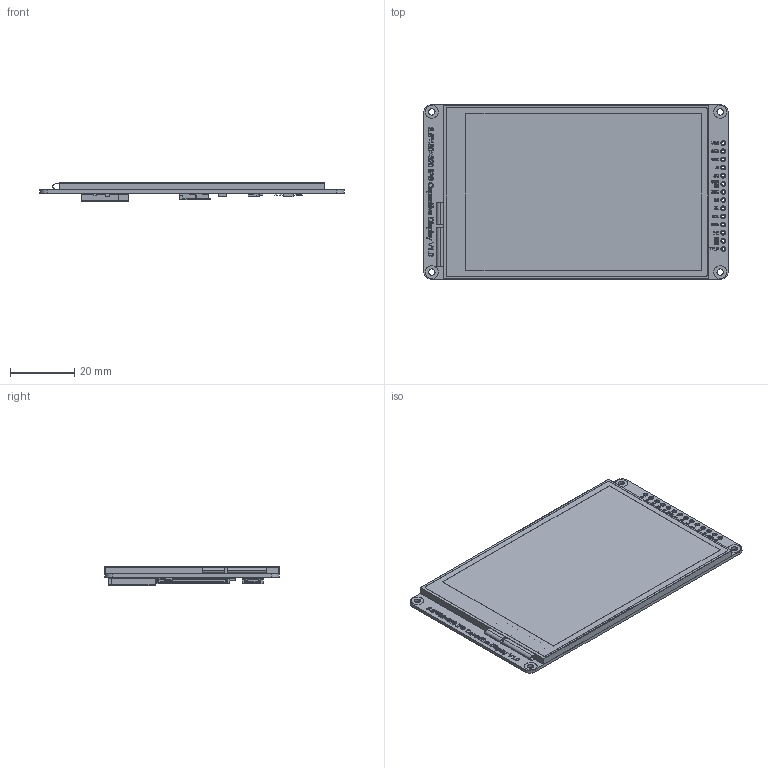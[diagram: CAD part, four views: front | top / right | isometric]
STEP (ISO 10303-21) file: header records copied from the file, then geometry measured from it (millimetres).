
FILE_DESCRIPTION(/* description */ (''),/* implementation_level */ '2;1');
FILE_NAME(/* name */ 'DFR1092',/* time_stamp */ '2025-10-31T10:07:04+08:00',/* author */ (''),/* organization */ (''),/* preprocessor_version */ 'ST-DEVELOPER v19.2',/* originating_system */ 'Rhino 8.0',/* authorisation */ '');
FILE_SCHEMA (('CONFIG_CONTROL_DESIGN'));
Products named in the file (1): Document
Bounding box: 95 x 54.5 x 5.7 mm (x, y, z)
Volume: 15113.2 mm3; surface area: 32585.1 mm2
Topology: 249 solids, 253 shells, 4149 faces, 10667 edges, 7044 vertices
Faces by surface type: plane 3471, cylinder 457, bspline 221
Entity records: 133843 total; most frequent: CARTESIAN_POINT 45011, ORIENTED_EDGE 21286, EDGE_CURVE 10659, B_SPLINE_CURVE_WITH_KNOTS 10023, VERTEX_POINT 7044, DIRECTION 5014, AXIS2_PLACEMENT_3D 4469, EDGE_LOOP 4379
